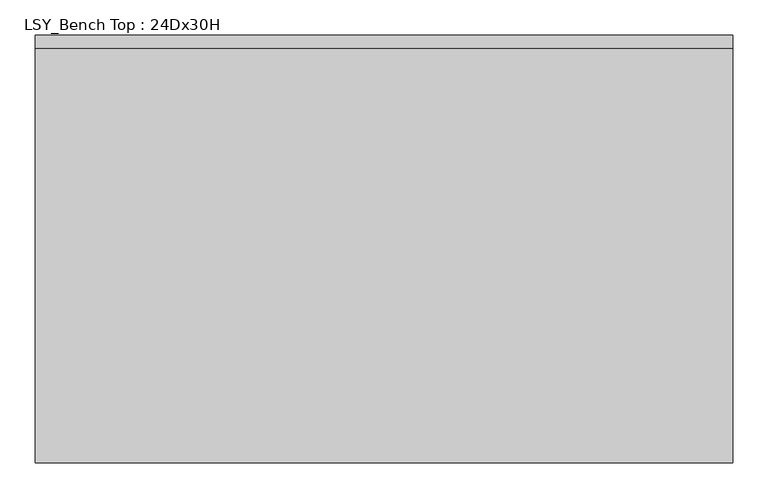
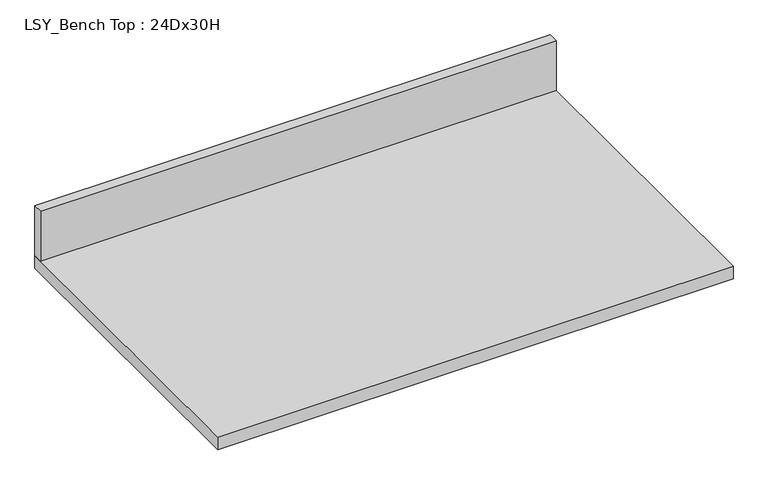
"""IFC4 building model written with IfcOpenShell, lengths in millimetres: furniture geometry, LSY_Bench Top : 24Dx30H."""

from ifc_helpers import new_model, si_unit, frame, origin, place, context, project, spatial, polyline, outline, extrude, source, transform, mapped, element, save


def lsy_bench_top_24dx30h_31415ff7(model_context):
    return source(origin(), model_context, "Body", "SweptSolid", [
        extrude(outline(polyline([(-206.8872946, -615.0), (-206.8872946, -1224.6), (-1200.4622951, -1224.6), (-1200.4622951, -615.0), (-206.8872946, -615.0)])), frame((0.0, 0.0, 736.6), z_axis=(0.0, 0.0, 1.0), x_axis=(1.0, 0.0, 0.0)), (0.0, 0.0, 1.0), 25.4),
        extrude(outline(polyline([(-206.8872946, -615.0), (-206.8872946, -634.0), (-1200.4622951, -634.0), (-1200.4622951, -615.0), (-206.8872946, -615.0)])), frame((0.0, 0.0, 762.0), z_axis=(0.0, 0.0, 1.0), x_axis=(1.0, 0.0, 0.0)), (0.0, 0.0, 1.0), 102.0),
    ])


if __name__ == "__main__":
    model = new_model("IFC4")
    model_context = context("Model", 3, world=origin())
    ifc_project = project(units=[si_unit("LENGTHUNIT", "METRE", prefix="MILLI")], contexts=[model_context])
    site = spatial("IfcSite", under=ifc_project)
    building = spatial("IfcBuilding", under=site)
    placement = place(None, origin())
    lsy_bench_top_24dx30h_shape = lsy_bench_top_24dx30h_31415ff7(model_context)
    element("IfcFurniture", 1, ObjectType="LSY_Bench Top : 24Dx30H", at=placement, inside=building, context=model_context, shape_type="MappedRepresentation", body=[
        mapped(lsy_bench_top_24dx30h_shape, transform((0.0, 0.0, 0.0), x_axis=(1.0, 0.0, 0.0), y_axis=(0.0, 1.0, 0.0), z_axis=(0.0, 0.0, 1.0))),
    ])
    save(model, "model.ifc")
